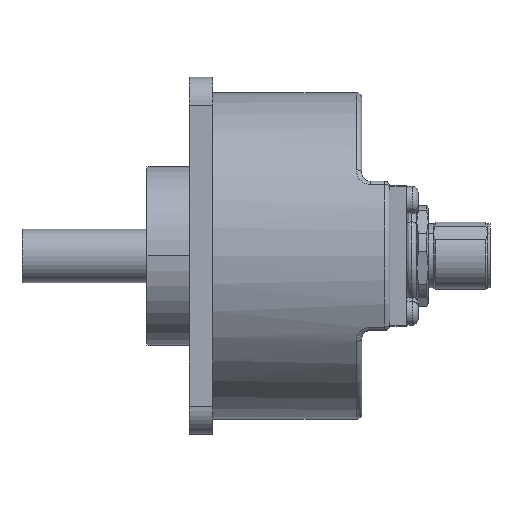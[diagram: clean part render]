
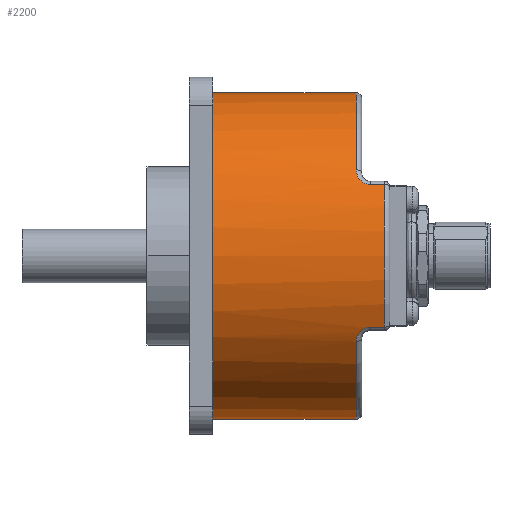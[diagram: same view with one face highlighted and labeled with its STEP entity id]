
A CAD part, top view. The second image highlights one B-rep face of the part: STEP entity #2200.
In plain terms, the highlighted cylindrical face has radius 29 mm (diameter 58 mm), a partial arc.
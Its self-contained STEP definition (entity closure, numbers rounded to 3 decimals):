
#127 = EDGE_CURVE ( 'NONE', #1821, #7512, #9396, .T. ) ;
#155 = CARTESIAN_POINT ( 'NONE',  ( 36.068, 38.111, 26.077 ) ) ;
#444 = CARTESIAN_POINT ( 'NONE',  ( 36.068, 38.111, 26.077 ) ) ;
#500 = CARTESIAN_POINT ( 'NONE',  ( 34.727, 38.507, 25.881 ) ) ;
#900 = VERTEX_POINT ( 'NONE', #7822 ) ;
#960 = EDGE_LOOP ( 'NONE', ( #4859, #6040, #6734, #4222, #9855, #6536, #7597, #3863, #6599, #4749 ) ) ;
#1017 = CARTESIAN_POINT ( 'NONE',  ( 34.568, -3.577, 0. ) ) ;
#1039 = CARTESIAN_POINT ( 'NONE',  ( 38.568, 38.111, 26.077 ) ) ;
#1067 = EDGE_CURVE ( 'NONE', #11191, #2428, #4755, .T. ) ;
#1074 = EDGE_CURVE ( 'NONE', #11191, #4522, #8968, .T. ) ;
#1354 = CARTESIAN_POINT ( 'NONE',  ( 35.192, 38.268, 26. ) ) ;
#1429 = LINE ( 'NONE', #11265, #6507 ) ;
#1540 = CARTESIAN_POINT ( 'NONE',  ( 36.068, 12.736, 26.077 ) ) ;
#1646 = CARTESIAN_POINT ( 'NONE',  ( 34.869, 12.426, 25.924 ) ) ;
#1686 = CARTESIAN_POINT ( 'NONE',  ( 33.619, 40.088, 25.021 ) ) ;
#1692 = B_SPLINE_CURVE_WITH_KNOTS ( 'NONE', 3,
 ( #4288, #7790, #5115, #8648, #11209, #5798, #6788, #7735, #2458, #6035, #1646, #3315, #6666, #5914, #6848, #1540 ),
 .UNSPECIFIED., .F., .F.,
 ( 4, 2, 2, 2, 2, 2, 2, 4 ),
 ( 0., 0.001, 0.002, 0.002, 0.003, 0.003, 0.004, 0.004 ),
 .UNSPECIFIED. ) ;
#1821 = VERTEX_POINT ( 'NONE', #1039 ) ;
#1857 = DIRECTION ( 'NONE',  ( 0., 1., 0. ) ) ;
#1974 = DIRECTION ( 'NONE',  ( -1., 0., 0. ) ) ;
#2039 = FACE_OUTER_BOUND ( 'NONE', #960, .T. ) ;
#2093 = CIRCLE ( 'NONE', #7265, 29. ) ;
#2200 = ADVANCED_FACE ( 'NONE', ( #2039 ), #2912, .T. ) ;
#2215 = CARTESIAN_POINT ( 'NONE',  ( 8.068, 54.423, 0. ) ) ;
#2428 = VERTEX_POINT ( 'NONE', #6942 ) ;
#2458 = CARTESIAN_POINT ( 'NONE',  ( 34.45, 12.128, 25.773 ) ) ;
#2666 = AXIS2_PLACEMENT_3D ( 'NONE', #2773, #6189, #1857 ) ;
#2711 = VERTEX_POINT ( 'NONE', #7975 ) ;
#2773 = CARTESIAN_POINT ( 'NONE',  ( 33.568, 25.423, 0. ) ) ;
#2870 = EDGE_CURVE ( 'NONE', #2428, #900, #1692, .T. ) ;
#2912 = CYLINDRICAL_SURFACE ( 'NONE', #7937, 29. ) ;
#2980 = EDGE_CURVE ( 'NONE', #900, #10786, #9502, .T. ) ;
#3036 = DIRECTION ( 'NONE',  ( 0., 1., 0. ) ) ;
#3315 = CARTESIAN_POINT ( 'NONE',  ( 35.187, 12.576, 25.999 ) ) ;
#3424 = CARTESIAN_POINT ( 'NONE',  ( 33.849, 39.496, 25.357 ) ) ;
#3863 = ORIENTED_EDGE ( 'NONE', *, *, #4282, .T. ) ;
#3897 = DIRECTION ( 'NONE',  ( 1., 0., 0. ) ) ;
#3941 = CARTESIAN_POINT ( 'NONE',  ( 35.887, 38.111, 26.077 ) ) ;
#3990 = CARTESIAN_POINT ( 'NONE',  ( 34.453, 38.716, 25.774 ) ) ;
#4200 = AXIS2_PLACEMENT_3D ( 'NONE', #5451, #1974, #6316 ) ;
#4222 = ORIENTED_EDGE ( 'NONE', *, *, #1074, .F. ) ;
#4276 = CARTESIAN_POINT ( 'NONE',  ( 33.568, 40.393, 24.84 ) ) ;
#4282 = EDGE_CURVE ( 'NONE', #10786, #1821, #5386, .T. ) ;
#4288 = CARTESIAN_POINT ( 'NONE',  ( 33.568, 10.146, 24.65 ) ) ;
#4522 = VERTEX_POINT ( 'NONE', #6181 ) ;
#4677 = CIRCLE ( 'NONE', #2666, 29. ) ;
#4749 = ORIENTED_EDGE ( 'NONE', *, *, #8637, .T. ) ;
#4755 = CIRCLE ( 'NONE', #4200, 29. ) ;
#4843 = CARTESIAN_POINT ( 'NONE',  ( 38.568, 25.423, 0. ) ) ;
#4859 = ORIENTED_EDGE ( 'NONE', *, *, #7964, .T. ) ;
#4875 = CARTESIAN_POINT ( 'NONE',  ( 34.876, 38.417, 25.926 ) ) ;
#5115 = CARTESIAN_POINT ( 'NONE',  ( 33.619, 10.756, 25.02 ) ) ;
#5205 = DIRECTION ( 'NONE',  ( 0., 1., 0. ) ) ;
#5386 = CIRCLE ( 'NONE', #6658, 29. ) ;
#5407 = CARTESIAN_POINT ( 'NONE',  ( 33.568, -3.577, 0. ) ) ;
#5451 = CARTESIAN_POINT ( 'NONE',  ( 33.568, 25.423, 0. ) ) ;
#5798 = CARTESIAN_POINT ( 'NONE',  ( 34.011, 11.627, 25.509 ) ) ;
#5914 = CARTESIAN_POINT ( 'NONE',  ( 35.705, 12.715, 26.067 ) ) ;
#6035 = CARTESIAN_POINT ( 'NONE',  ( 34.722, 12.336, 25.879 ) ) ;
#6040 = ORIENTED_EDGE ( 'NONE', *, *, #10273, .T. ) ;
#6181 = CARTESIAN_POINT ( 'NONE',  ( 8.068, -3.577, 0. ) ) ;
#6189 = DIRECTION ( 'NONE',  ( -1., 0., 0. ) ) ;
#6316 = DIRECTION ( 'NONE',  ( 0., 1., 0. ) ) ;
#6507 = VECTOR ( 'NONE', #8704, 1000. ) ;
#6536 = ORIENTED_EDGE ( 'NONE', *, *, #2870, .T. ) ;
#6597 = CARTESIAN_POINT ( 'NONE',  ( 35.363, 38.209, 26.029 ) ) ;
#6599 = ORIENTED_EDGE ( 'NONE', *, *, #127, .T. ) ;
#6636 = B_SPLINE_CURVE_WITH_KNOTS ( 'NONE', 3,
 ( #444, #3941, #10975, #6597, #1354, #4875, #500, #3990, #7531, #11305, #10509, #3424, #7946, #1686, #4276, #10579 ),
 .UNSPECIFIED., .F., .F.,
 ( 4, 2, 2, 2, 2, 2, 2, 4 ),
 ( 0., 0.001, 0.001, 0.002, 0.002, 0.003, 0.003, 0.004 ),
 .UNSPECIFIED. ) ;
#6658 = AXIS2_PLACEMENT_3D ( 'NONE', #4843, #8684, #5205 ) ;
#6666 = CARTESIAN_POINT ( 'NONE',  ( 35.358, 12.636, 26.029 ) ) ;
#6734 = ORIENTED_EDGE ( 'NONE', *, *, #11066, .T. ) ;
#6788 = CARTESIAN_POINT ( 'NONE',  ( 34.106, 11.76, 25.58 ) ) ;
#6824 = VECTOR ( 'NONE', #7775, 1000. ) ;
#6848 = CARTESIAN_POINT ( 'NONE',  ( 35.886, 12.736, 26.077 ) ) ;
#6942 = CARTESIAN_POINT ( 'NONE',  ( 33.568, 10.146, 24.65 ) ) ;
#7159 = VECTOR ( 'NONE', #9739, 1000. ) ;
#7181 = VERTEX_POINT ( 'NONE', #2215 ) ;
#7265 = AXIS2_PLACEMENT_3D ( 'NONE', #10941, #3897, #3036 ) ;
#7306 = DIRECTION ( 'NONE',  ( -1., 0., 0. ) ) ;
#7391 = CARTESIAN_POINT ( 'NONE',  ( 38.568, 12.736, 26.077 ) ) ;
#7512 = VERTEX_POINT ( 'NONE', #155 ) ;
#7531 = CARTESIAN_POINT ( 'NONE',  ( 34.33, 38.831, 25.715 ) ) ;
#7597 = ORIENTED_EDGE ( 'NONE', *, *, #2980, .T. ) ;
#7677 = CARTESIAN_POINT ( 'NONE',  ( 34.568, 38.111, 26.077 ) ) ;
#7735 = CARTESIAN_POINT ( 'NONE',  ( 34.324, 12.01, 25.712 ) ) ;
#7775 = DIRECTION ( 'NONE',  ( 1., 0., 0. ) ) ;
#7790 = CARTESIAN_POINT ( 'NONE',  ( 33.568, 10.454, 24.84 ) ) ;
#7822 = CARTESIAN_POINT ( 'NONE',  ( 36.068, 12.736, 26.077 ) ) ;
#7937 = AXIS2_PLACEMENT_3D ( 'NONE', #8359, #7306, #10128 ) ;
#7946 = CARTESIAN_POINT ( 'NONE',  ( 33.782, 39.64, 25.277 ) ) ;
#7964 = EDGE_CURVE ( 'NONE', #2711, #9890, #4677, .T. ) ;
#7975 = CARTESIAN_POINT ( 'NONE',  ( 33.568, 40.7, 24.65 ) ) ;
#8326 = DIRECTION ( 'NONE',  ( -1., 0., 0. ) ) ;
#8359 = CARTESIAN_POINT ( 'NONE',  ( 34.568, 25.423, 0. ) ) ;
#8637 = EDGE_CURVE ( 'NONE', #7512, #2711, #6636, .T. ) ;
#8648 = CARTESIAN_POINT ( 'NONE',  ( 33.779, 11.201, 25.274 ) ) ;
#8684 = DIRECTION ( 'NONE',  ( -1., 0., 0. ) ) ;
#8704 = DIRECTION ( 'NONE',  ( -1., 0., 0. ) ) ;
#8968 = LINE ( 'NONE', #1017, #7159 ) ;
#9396 = LINE ( 'NONE', #7677, #9734 ) ;
#9502 = LINE ( 'NONE', #11248, #6824 ) ;
#9734 = VECTOR ( 'NONE', #8326, 1000. ) ;
#9739 = DIRECTION ( 'NONE',  ( -1., 0., 0. ) ) ;
#9816 = CARTESIAN_POINT ( 'NONE',  ( 33.568, 54.423, 0. ) ) ;
#9855 = ORIENTED_EDGE ( 'NONE', *, *, #1067, .T. ) ;
#9890 = VERTEX_POINT ( 'NONE', #9816 ) ;
#10128 = DIRECTION ( 'NONE',  ( 0., -1., 0. ) ) ;
#10273 = EDGE_CURVE ( 'NONE', #9890, #7181, #1429, .T. ) ;
#10509 = CARTESIAN_POINT ( 'NONE',  ( 34.013, 39.217, 25.51 ) ) ;
#10579 = CARTESIAN_POINT ( 'NONE',  ( 33.568, 40.7, 24.65 ) ) ;
#10786 = VERTEX_POINT ( 'NONE', #7391 ) ;
#10941 = CARTESIAN_POINT ( 'NONE',  ( 8.068, 25.423, 0. ) ) ;
#10975 = CARTESIAN_POINT ( 'NONE',  ( 35.71, 38.131, 26.068 ) ) ;
#11066 = EDGE_CURVE ( 'NONE', #7181, #4522, #2093, .T. ) ;
#11191 = VERTEX_POINT ( 'NONE', #5407 ) ;
#11209 = CARTESIAN_POINT ( 'NONE',  ( 33.848, 11.348, 25.356 ) ) ;
#11248 = CARTESIAN_POINT ( 'NONE',  ( 34.568, 12.736, 26.077 ) ) ;
#11265 = CARTESIAN_POINT ( 'NONE',  ( 34.568, 54.423, 0. ) ) ;
#11305 = CARTESIAN_POINT ( 'NONE',  ( 34.11, 39.081, 25.583 ) ) ;
